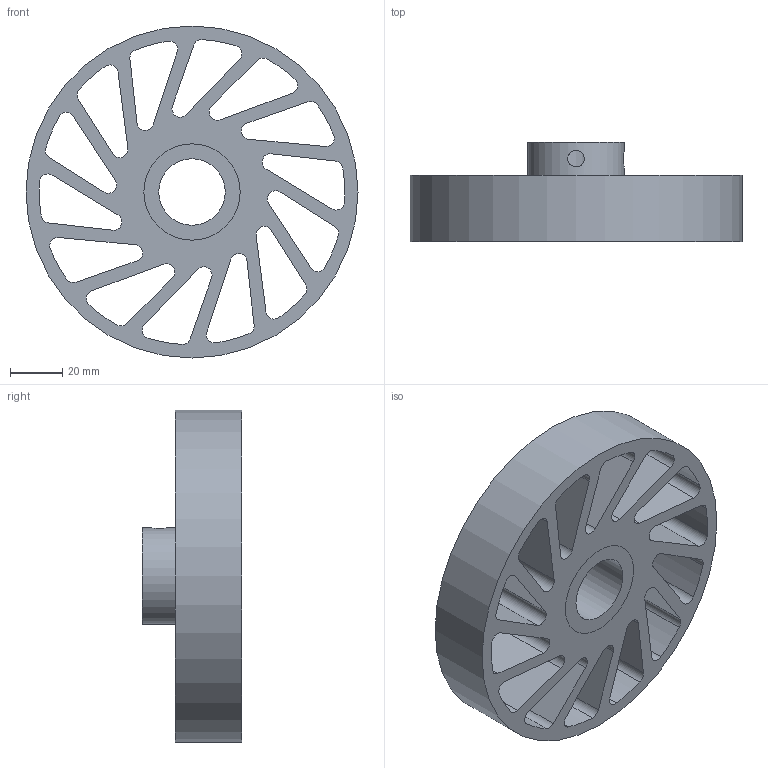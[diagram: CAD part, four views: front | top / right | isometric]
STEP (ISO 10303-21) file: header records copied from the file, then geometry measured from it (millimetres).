
FILE_DESCRIPTION(/* description */ (''),/* implementation_level */ '2;1');
FILE_NAME(/* name */ 'NCW-480-XXX-YYY.stp',/* time_stamp */ '2023-02-02T15:21:59-06:00',/* author */ ('AG'),/* organization */ ('Meridian Laboratory'),/* preprocessor_version */ 'ST-DEVELOPER v18.1',/* originating_system */ 'Autodesk Inventor 2022',/* authorisation */ '');
FILE_SCHEMA (('AUTOMOTIVE_DESIGN { 1 0 10303 214 3 1 1 }'));
Length unit declared in the file: inch
Products named in the file (1): NCW-440
Bounding box: 127 x 38.1 x 127 mm (x, y, z)
Volume: 174239.8 mm3; surface area: 64569.2 mm2
Topology: 2 solids, 2 shells, 94 faces, 276 edges, 186 vertices
Faces by surface type: cylinder 62, plane 32
Full cylindrical faces by diameter (mm): 6.35 x2, 25.425 x1, 36.83 x2, 127 x1
Entity records: 3530 total; most frequent: CARTESIAN_POINT 697, DIRECTION 576, ORIENTED_EDGE 552, EDGE_CURVE 276, AXIS2_PLACEMENT_3D 215, VERTEX_POINT 186, LINE 146, VECTOR 146
